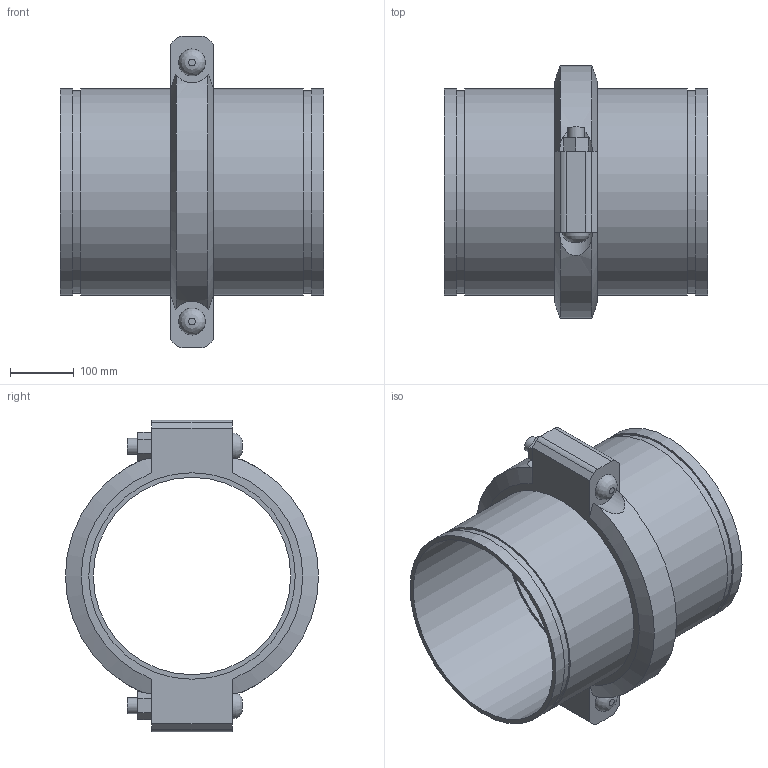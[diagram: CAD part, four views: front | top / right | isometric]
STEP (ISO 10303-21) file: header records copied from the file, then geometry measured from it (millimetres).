
FILE_DESCRIPTION(/* description */ ('VIC EXPANSION JOINT 1 COUPLING EXPANDED STYLE 155 (OGS)','CAx-IF Rec.Pracs.---Representation and Presentation of Product Manufacturing Information (PMI)---4.0---2014-10-13'),/* implementation_level */ '2;1');
FILE_NAME(/* name */ 'C:\Users\kkamble\AppData\Roaming\Autodesk\ApplicationPlugins\Victaulic.Temp\A694\Victaulic_IPS_Expansion Joint_Expanded_1 Coupling_Style 155 (OGS)_12 (300).stp',/* time_stamp */ '2021-06-26T23:48:11+02:00',/* author */ ('kkamble'),/* organization */ ('Victaulic'),/* preprocessor_version */ 'ST-DEVELOPER v17.2',/* originating_system */ 'Autodesk Inventor 2019',/* authorisation */ '');
FILE_SCHEMA (('AP242_MANAGED_MODEL_BASED_3D_ENGINEERING_MIM_LF { 1 0 10303 442 1 1 4 }'));
Length unit declared in the file: inch
Products named in the file (3): 155-12.0; Nipple-12.0; 077-12.0
Assembly tree (3 placements, depth 2):
  155-12.0
    Nipple-12.0  x2
    077-12.0
Bounding box: 412.75 x 397 x 488.95 mm (x, y, z)
Volume: 6157740.1 mm3; surface area: 1184715.3 mm2
Topology: 3 solids, 5 shells, 85 faces, 205 edges, 146 vertices
Faces by surface type: plane 48, cylinder 31, cone 4, bspline 2
Full cylindrical faces by diameter (mm): 25.4 x4, 27.432 x2, 309.677 x2, 314.96 x1, 318.287 x4, 323.85 x8
Entity records: 2557 total; most frequent: CARTESIAN_POINT 584, DIRECTION 381, ORIENTED_EDGE 350, EDGE_CURVE 175, AXIS2_PLACEMENT_3D 149, VERTEX_POINT 122, EDGE_LOOP 93, LINE 83
